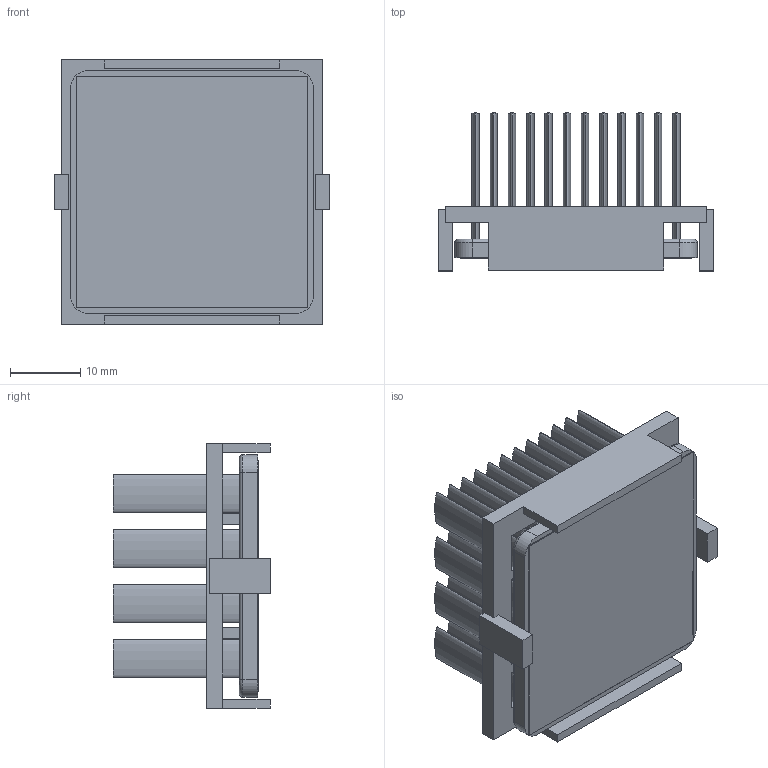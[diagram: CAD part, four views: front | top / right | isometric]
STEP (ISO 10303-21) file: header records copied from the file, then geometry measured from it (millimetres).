
FILE_DESCRIPTION (( 'STEP AP214' ), '1' );
FILE_NAME ('INM35001-21W-2.6BU.STEP', '2023-02-20T22:44:16', ( '' ), ( '' ), 'SwSTEP 2.0', 'SolidWorks 2020', '' );
FILE_SCHEMA (( 'AUTOMOTIVE_DESIGN' ));
Length unit declared in the file: inch
Products named in the file (1): INM35001-21W-2.6BU
Bounding box: 39.2 x 22.5 x 37.7 mm (x, y, z)
Volume: 9024.1 mm3; surface area: 17592.6 mm2
Topology: 3 solids, 3 shells, 222 faces, 496 edges, 328 vertices
Faces by surface type: plane 114, bspline 96, cylinder 8, torus 4
Entity records: 9276 total; most frequent: CARTESIAN_POINT 2295, ORIENTED_EDGE 992, DIRECTION 578, EDGE_CURVE 496, VERTEX_POINT 328, VECTOR 284, LINE 284, EDGE_LOOP 272
